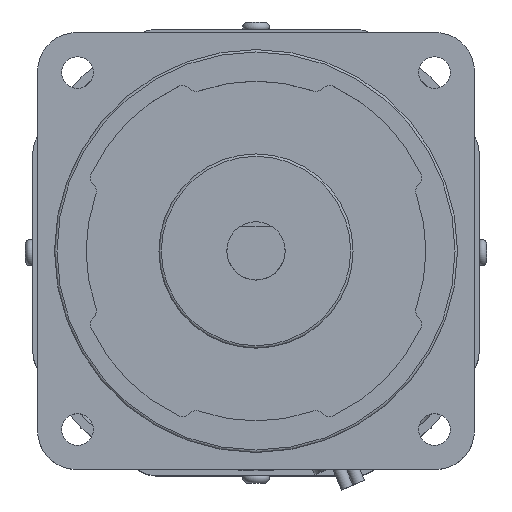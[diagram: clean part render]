
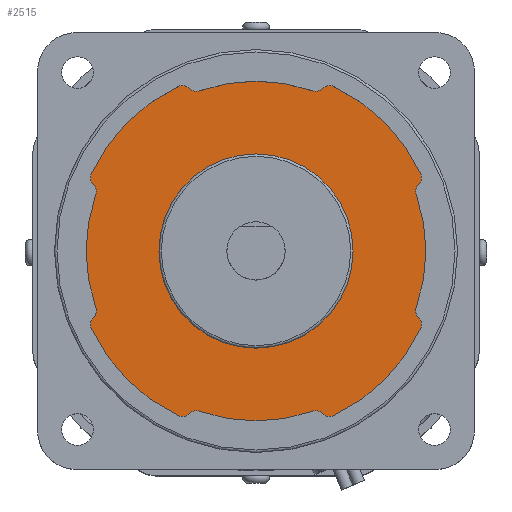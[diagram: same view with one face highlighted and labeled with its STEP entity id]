
A CAD part, top view. The second image highlights one B-rep face of the part: STEP entity #2515.
In plain terms, the highlighted planar face has unit normal (0, 0, 1).
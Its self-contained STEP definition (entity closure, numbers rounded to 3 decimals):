
#1196=CARTESIAN_POINT('',(20.0,0.,232.0));
#1197=VERTEX_POINT('',#1196);
#1198=CARTESIAN_POINT('',(0.,0.,232.0));
#1199=DIRECTION('',(0.0,0.0,-1.0));
#1200=DIRECTION('',(-1.0,0.0,0.0));
#1201=AXIS2_PLACEMENT_3D('',#1198,#1199,#1200);
#1202=CIRCLE('',#1201,20.0);
#1203=EDGE_CURVE('',#1197,#1197,#1202,.T.);
#1226=CARTESIAN_POINT('',(-13.722,-33.501,232.0));
#1227=VERTEX_POINT('',#1226);
#1243=CARTESIAN_POINT('',(-11.626,-33.013,232.0));
#1244=VERTEX_POINT('',#1243);
#1251=CARTESIAN_POINT('',(-12.291,-34.899,232.0));
#1252=DIRECTION('',(0.0,0.0,-1.0));
#1253=DIRECTION('',(-0.408,0.913,0.0));
#1254=AXIS2_PLACEMENT_3D('',#1251,#1252,#1253);
#1255=CIRCLE('',#1254,2.0);
#1256=EDGE_CURVE('',#1244,#1227,#1255,.F.);
#1276=CARTESIAN_POINT('',(11.626,-33.013,232.0));
#1277=VERTEX_POINT('',#1276);
#1284=CARTESIAN_POINT('',(0.,0.,232.0));
#1285=DIRECTION('',(0.,0.,1.0));
#1286=DIRECTION('',(-0.383,-0.924,0.));
#1287=AXIS2_PLACEMENT_3D('',#1284,#1285,#1286);
#1288=CIRCLE('',#1287,35.0);
#1289=EDGE_CURVE('',#1244,#1277,#1288,.T.);
#1299=CARTESIAN_POINT('',(13.722,-33.501,232.0));
#1300=VERTEX_POINT('',#1299);
#1309=CARTESIAN_POINT('',(12.291,-34.899,232.0));
#1310=DIRECTION('',(0.0,0.0,-1.0));
#1311=DIRECTION('',(0.408,0.913,0.0));
#1312=AXIS2_PLACEMENT_3D('',#1309,#1310,#1311);
#1313=CIRCLE('',#1312,2.0);
#1314=EDGE_CURVE('',#1300,#1277,#1313,.F.);
#1341=CARTESIAN_POINT('',(16.006,-33.913,232.0));
#1342=VERTEX_POINT('',#1341);
#1349=CARTESIAN_POINT('',(15.152,-32.104,232.0));
#1350=DIRECTION('',(0.0,0.0,1.0));
#1351=DIRECTION('',(0.715,0.699,0.0));
#1352=AXIS2_PLACEMENT_3D('',#1349,#1350,#1351);
#1353=CIRCLE('',#1352,2.);
#1354=EDGE_CURVE('',#1300,#1342,#1353,.T.);
#1365=CARTESIAN_POINT('',(33.913,-16.006,232.0));
#1366=VERTEX_POINT('',#1365);
#1375=CARTESIAN_POINT('',(0.,0.,232.0));
#1376=DIRECTION('',(0.,0.,1.0));
#1377=DIRECTION('',(0.383,-0.924,0.));
#1378=AXIS2_PLACEMENT_3D('',#1375,#1376,#1377);
#1379=CIRCLE('',#1378,37.5);
#1380=EDGE_CURVE('',#1342,#1366,#1379,.T.);
#1407=CARTESIAN_POINT('',(33.501,-13.722,232.0));
#1408=VERTEX_POINT('',#1407);
#1415=CARTESIAN_POINT('',(32.104,-15.152,232.0));
#1416=DIRECTION('',(0.0,0.0,1.0));
#1417=DIRECTION('',(-0.904,0.427,0.0));
#1418=AXIS2_PLACEMENT_3D('',#1415,#1416,#1417);
#1419=CIRCLE('',#1418,2.);
#1420=EDGE_CURVE('',#1366,#1408,#1419,.T.);
#1441=CARTESIAN_POINT('',(33.013,-11.626,232.0));
#1442=VERTEX_POINT('',#1441);
#1449=CARTESIAN_POINT('',(34.899,-12.291,232.0));
#1450=DIRECTION('',(0.0,0.0,-1.0));
#1451=DIRECTION('',(-0.913,-0.408,0.0));
#1452=AXIS2_PLACEMENT_3D('',#1449,#1450,#1451);
#1453=CIRCLE('',#1452,2.0);
#1454=EDGE_CURVE('',#1442,#1408,#1453,.F.);
#1464=CARTESIAN_POINT('',(33.013,11.626,232.0));
#1465=VERTEX_POINT('',#1464);
#1474=CARTESIAN_POINT('',(0.,0.,232.0));
#1475=DIRECTION('',(0.,0.,1.0));
#1476=DIRECTION('',(0.924,-0.383,0.));
#1477=AXIS2_PLACEMENT_3D('',#1474,#1475,#1476);
#1478=CIRCLE('',#1477,35.);
#1479=EDGE_CURVE('',#1442,#1465,#1478,.T.);
#1497=CARTESIAN_POINT('',(33.501,13.722,232.0));
#1498=VERTEX_POINT('',#1497);
#1507=CARTESIAN_POINT('',(34.899,12.291,232.0));
#1508=DIRECTION('',(0.0,0.0,-1.0));
#1509=DIRECTION('',(-0.913,0.408,0.0));
#1510=AXIS2_PLACEMENT_3D('',#1507,#1508,#1509);
#1511=CIRCLE('',#1510,2.0);
#1512=EDGE_CURVE('',#1498,#1465,#1511,.F.);
#1539=CARTESIAN_POINT('',(33.913,16.006,232.0));
#1540=VERTEX_POINT('',#1539);
#1547=CARTESIAN_POINT('',(32.104,15.152,232.0));
#1548=DIRECTION('',(0.0,0.0,1.0));
#1549=DIRECTION('',(-0.699,0.715,0.0));
#1550=AXIS2_PLACEMENT_3D('',#1547,#1548,#1549);
#1551=CIRCLE('',#1550,2.);
#1552=EDGE_CURVE('',#1498,#1540,#1551,.T.);
#1563=CARTESIAN_POINT('',(16.006,33.913,232.0));
#1564=VERTEX_POINT('',#1563);
#1573=CARTESIAN_POINT('',(0.,0.,232.0));
#1574=DIRECTION('',(0.,0.,1.0));
#1575=DIRECTION('',(0.924,0.383,0.));
#1576=AXIS2_PLACEMENT_3D('',#1573,#1574,#1575);
#1577=CIRCLE('',#1576,37.5);
#1578=EDGE_CURVE('',#1540,#1564,#1577,.T.);
#1605=CARTESIAN_POINT('',(13.722,33.501,232.0));
#1606=VERTEX_POINT('',#1605);
#1613=CARTESIAN_POINT('',(15.152,32.104,232.0));
#1614=DIRECTION('',(0.0,0.0,1.0));
#1615=DIRECTION('',(-0.427,-0.904,0.0));
#1616=AXIS2_PLACEMENT_3D('',#1613,#1614,#1615);
#1617=CIRCLE('',#1616,2.);
#1618=EDGE_CURVE('',#1564,#1606,#1617,.T.);
#1639=CARTESIAN_POINT('',(11.626,33.013,232.0));
#1640=VERTEX_POINT('',#1639);
#1647=CARTESIAN_POINT('',(12.291,34.899,232.0));
#1648=DIRECTION('',(0.0,0.0,-1.0));
#1649=DIRECTION('',(0.408,-0.913,0.0));
#1650=AXIS2_PLACEMENT_3D('',#1647,#1648,#1649);
#1651=CIRCLE('',#1650,2.0);
#1652=EDGE_CURVE('',#1640,#1606,#1651,.F.);
#1662=CARTESIAN_POINT('',(-11.626,33.013,232.0));
#1663=VERTEX_POINT('',#1662);
#1672=CARTESIAN_POINT('',(0.,0.,232.0));
#1673=DIRECTION('',(0.,0.,1.0));
#1674=DIRECTION('',(0.383,0.924,0.));
#1675=AXIS2_PLACEMENT_3D('',#1672,#1673,#1674);
#1676=CIRCLE('',#1675,35.0);
#1677=EDGE_CURVE('',#1640,#1663,#1676,.T.);
#1695=CARTESIAN_POINT('',(-13.722,33.501,232.0));
#1696=VERTEX_POINT('',#1695);
#1705=CARTESIAN_POINT('',(-12.291,34.899,232.0));
#1706=DIRECTION('',(0.0,0.0,-1.0));
#1707=DIRECTION('',(-0.408,-0.913,0.0));
#1708=AXIS2_PLACEMENT_3D('',#1705,#1706,#1707);
#1709=CIRCLE('',#1708,2.0);
#1710=EDGE_CURVE('',#1696,#1663,#1709,.F.);
#1737=CARTESIAN_POINT('',(-16.006,33.913,232.0));
#1738=VERTEX_POINT('',#1737);
#1745=CARTESIAN_POINT('',(-15.152,32.104,232.0));
#1746=DIRECTION('',(0.0,0.0,1.0));
#1747=DIRECTION('',(-0.715,-0.699,0.0));
#1748=AXIS2_PLACEMENT_3D('',#1745,#1746,#1747);
#1749=CIRCLE('',#1748,2.);
#1750=EDGE_CURVE('',#1696,#1738,#1749,.T.);
#1771=CARTESIAN_POINT('',(-33.913,16.006,232.0));
#1772=VERTEX_POINT('',#1771);
#1779=CARTESIAN_POINT('',(0.,0.,232.0));
#1780=DIRECTION('',(0.,0.,1.0));
#1781=DIRECTION('',(-0.383,0.924,0.));
#1782=AXIS2_PLACEMENT_3D('',#1779,#1780,#1781);
#1783=CIRCLE('',#1782,37.5);
#1784=EDGE_CURVE('',#1738,#1772,#1783,.T.);
#1803=CARTESIAN_POINT('',(-33.501,13.722,232.0));
#1804=VERTEX_POINT('',#1803);
#1811=CARTESIAN_POINT('',(-32.104,15.152,232.0));
#1812=DIRECTION('',(0.0,0.0,1.0));
#1813=DIRECTION('',(0.904,-0.427,0.0));
#1814=AXIS2_PLACEMENT_3D('',#1811,#1812,#1813);
#1815=CIRCLE('',#1814,2.);
#1816=EDGE_CURVE('',#1772,#1804,#1815,.T.);
#1837=CARTESIAN_POINT('',(-33.013,11.626,232.0));
#1838=VERTEX_POINT('',#1837);
#1845=CARTESIAN_POINT('',(-34.899,12.291,232.0));
#1846=DIRECTION('',(0.0,0.0,-1.0));
#1847=DIRECTION('',(0.913,0.408,0.0));
#1848=AXIS2_PLACEMENT_3D('',#1845,#1846,#1847);
#1849=CIRCLE('',#1848,2.0);
#1850=EDGE_CURVE('',#1838,#1804,#1849,.F.);
#1860=CARTESIAN_POINT('',(-33.013,-11.626,232.0));
#1861=VERTEX_POINT('',#1860);
#1870=CARTESIAN_POINT('',(0.,0.,232.0));
#1871=DIRECTION('',(0.,0.,1.0));
#1872=DIRECTION('',(-0.924,0.383,0.));
#1873=AXIS2_PLACEMENT_3D('',#1870,#1871,#1872);
#1874=CIRCLE('',#1873,35.0);
#1875=EDGE_CURVE('',#1838,#1861,#1874,.T.);
#1893=CARTESIAN_POINT('',(-33.501,-13.722,232.0));
#1894=VERTEX_POINT('',#1893);
#1903=CARTESIAN_POINT('',(-34.899,-12.291,232.0));
#1904=DIRECTION('',(0.0,0.0,-1.0));
#1905=DIRECTION('',(0.913,-0.408,0.0));
#1906=AXIS2_PLACEMENT_3D('',#1903,#1904,#1905);
#1907=CIRCLE('',#1906,2.0);
#1908=EDGE_CURVE('',#1894,#1861,#1907,.F.);
#1935=CARTESIAN_POINT('',(-33.913,-16.006,232.0));
#1936=VERTEX_POINT('',#1935);
#1943=CARTESIAN_POINT('',(-32.104,-15.152,232.0));
#1944=DIRECTION('',(0.0,0.0,1.0));
#1945=DIRECTION('',(0.699,-0.715,0.0));
#1946=AXIS2_PLACEMENT_3D('',#1943,#1944,#1945);
#1947=CIRCLE('',#1946,2.);
#1948=EDGE_CURVE('',#1894,#1936,#1947,.T.);
#1959=CARTESIAN_POINT('',(-16.006,-33.913,232.0));
#1960=VERTEX_POINT('',#1959);
#1969=CARTESIAN_POINT('',(0.,0.,232.0));
#1970=DIRECTION('',(0.,0.,1.0));
#1971=DIRECTION('',(-0.924,-0.383,0.));
#1972=AXIS2_PLACEMENT_3D('',#1969,#1970,#1971);
#1973=CIRCLE('',#1972,37.5);
#1974=EDGE_CURVE('',#1936,#1960,#1973,.T.);
#2000=CARTESIAN_POINT('',(-15.152,-32.104,232.0));
#2001=DIRECTION('',(0.0,0.0,1.0));
#2002=DIRECTION('',(0.427,0.904,0.0));
#2003=AXIS2_PLACEMENT_3D('',#2000,#2001,#2002);
#2004=CIRCLE('',#2003,2.);
#2005=EDGE_CURVE('',#1960,#1227,#2004,.T.);
#2481=CARTESIAN_POINT('',(0.,0.,232.0));
#2482=DIRECTION('',(0.0,0.0,1.0));
#2483=DIRECTION('',(1.0,0.0,0.0));
#2484=AXIS2_PLACEMENT_3D('',#2481,#2482,#2483);
#2485=PLANE('',#2484);
#2486=ORIENTED_EDGE('',*,*,#2005,.T.);
#2487=ORIENTED_EDGE('',*,*,#1256,.F.);
#2488=ORIENTED_EDGE('',*,*,#1289,.T.);
#2489=ORIENTED_EDGE('',*,*,#1314,.F.);
#2490=ORIENTED_EDGE('',*,*,#1354,.T.);
#2491=ORIENTED_EDGE('',*,*,#1380,.T.);
#2492=ORIENTED_EDGE('',*,*,#1420,.T.);
#2493=ORIENTED_EDGE('',*,*,#1454,.F.);
#2494=ORIENTED_EDGE('',*,*,#1479,.T.);
#2495=ORIENTED_EDGE('',*,*,#1512,.F.);
#2496=ORIENTED_EDGE('',*,*,#1552,.T.);
#2497=ORIENTED_EDGE('',*,*,#1578,.T.);
#2498=ORIENTED_EDGE('',*,*,#1618,.T.);
#2499=ORIENTED_EDGE('',*,*,#1652,.F.);
#2500=ORIENTED_EDGE('',*,*,#1677,.T.);
#2501=ORIENTED_EDGE('',*,*,#1710,.F.);
#2502=ORIENTED_EDGE('',*,*,#1750,.T.);
#2503=ORIENTED_EDGE('',*,*,#1784,.T.);
#2504=ORIENTED_EDGE('',*,*,#1816,.T.);
#2505=ORIENTED_EDGE('',*,*,#1850,.F.);
#2506=ORIENTED_EDGE('',*,*,#1875,.T.);
#2507=ORIENTED_EDGE('',*,*,#1908,.F.);
#2508=ORIENTED_EDGE('',*,*,#1948,.T.);
#2509=ORIENTED_EDGE('',*,*,#1974,.T.);
#2510=EDGE_LOOP('',(#2486,#2487,#2488,#2489,#2490,#2491,#2492,#2493,#2494,#2495,#2496,#2497,#2498,#2499,#2500,#2501,#2502,#2503,#2504,#2505,#2506,#2507,#2508,#2509));
#2511=FACE_OUTER_BOUND('',#2510,.T.);
#2512=ORIENTED_EDGE('',*,*,#1203,.T.);
#2513=EDGE_LOOP('',(#2512));
#2514=FACE_BOUND('',#2513,.T.);
#2515=ADVANCED_FACE('',(#2511,#2514),#2485,.T.);
